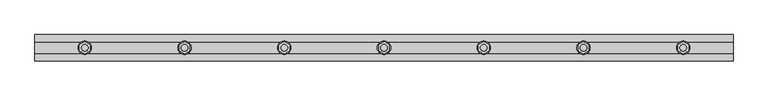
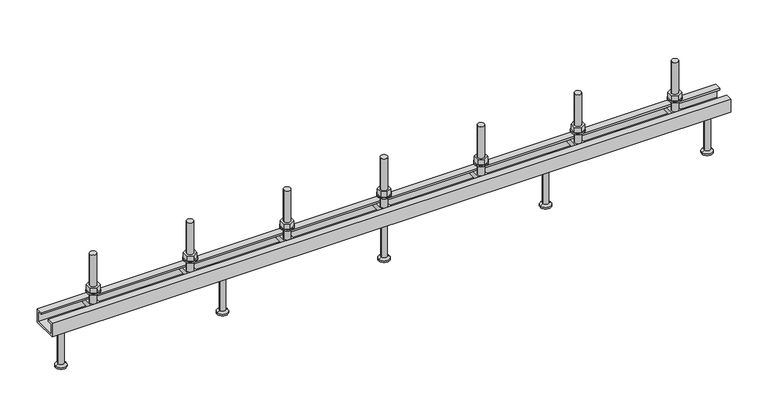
"""IFC4 building model written with IfcOpenShell, lengths in millimetres: fastener geometry, JTA-W JORDAHL® AnchorChannels : JTA-W L=1050 mm."""

from ifc_helpers import new_model, si_unit, point, frame, frame_2d, origin, place, context, project, spatial, polyline, circle_curve, trimmed, segment, composite_curve, outline, extrude, source, transform, mapped, element, save
from ifc_brep_helpers import plane_surface, cylinder_surface, revolved_surface, advanced_brep


def fastener_079a92b3(model_context):
    return source(origin(), model_context, "Body", "SolidModel", [
        extrude(outline(polyline([(825.0, 9.2376043), (833.0, 4.6188022), (833.0, -4.6188022), (825.0, -9.2376043), (817.0, -4.6188022), (817.0, 4.6188022), (825.0, 9.2376043)]), holes=[composite_curve([segment(trimmed(circle_curve(frame_2d((825.0, 0.0)), 5.0), [point((820.0, 0.0))], [point((830.0, 0.0))], True, "CARTESIAN"), True, "CONTINUOUS"), segment(trimmed(circle_curve(frame_2d((825.0, 0.0)), 5.0), [point((830.0, 0.0))], [point((820.0, 0.0))], True, "CARTESIAN"), True, "CONTINUOUS")], self_intersect=False)]), frame((0.0, 0.0, 17.0), z_axis=(0.0, 0.0, 1.0), x_axis=(1.0, 0.0, 0.0)), (0.0, 0.0, 1.0), 8.4),
        extrude(outline(composite_curve([segment(trimmed(circle_curve(frame_2d((825.0, 0.0)), 10.0), [point((815.0, 0.0))], [point((835.0, 0.0))], False, "CARTESIAN"), True, "CONTINUOUS"), segment(trimmed(circle_curve(frame_2d((825.0, 0.0)), 10.0), [point((835.0, 0.0))], [point((815.0, 0.0))], False, "CARTESIAN"), True, "CONTINUOUS")], self_intersect=False), holes=[composite_curve([segment(trimmed(circle_curve(frame_2d((825.0, 0.0)), 5.25), [point((819.75, 0.0))], [point((830.25, 0.0))], True, "CARTESIAN"), True, "CONTINUOUS"), segment(trimmed(circle_curve(frame_2d((825.0, 0.0)), 5.25), [point((830.25, 0.0))], [point((819.75, 0.0))], True, "CARTESIAN"), True, "CONTINUOUS")], self_intersect=False)]), frame((0.0, 0.0, 15.0), z_axis=(0.0, 0.0, 1.0), x_axis=(1.0, 0.0, 0.0)), (0.0, 0.0, 1.0), 2.0),
        extrude(outline(polyline([(675.0, 9.2376043), (683.0, 4.6188022), (683.0, -4.6188022), (675.0, -9.2376043), (667.0, -4.6188022), (667.0, 4.6188022), (675.0, 9.2376043)]), holes=[composite_curve([segment(trimmed(circle_curve(frame_2d((675.0, 0.0)), 5.0), [point((670.0, 0.0))], [point((680.0, 0.0))], True, "CARTESIAN"), True, "CONTINUOUS"), segment(trimmed(circle_curve(frame_2d((675.0, 0.0)), 5.0), [point((680.0, 0.0))], [point((670.0, 0.0))], True, "CARTESIAN"), True, "CONTINUOUS")], self_intersect=False)]), frame((0.0, 0.0, 17.0), z_axis=(0.0, 0.0, 1.0), x_axis=(1.0, 0.0, 0.0)), (0.0, 0.0, 1.0), 8.4),
        extrude(outline(composite_curve([segment(trimmed(circle_curve(frame_2d((675.0, 0.0)), 10.0), [point((665.0, 0.0))], [point((685.0, 0.0))], False, "CARTESIAN"), True, "CONTINUOUS"), segment(trimmed(circle_curve(frame_2d((675.0, 0.0)), 10.0), [point((685.0, 0.0))], [point((665.0, 0.0))], False, "CARTESIAN"), True, "CONTINUOUS")], self_intersect=False), holes=[composite_curve([segment(trimmed(circle_curve(frame_2d((675.0, 0.0)), 5.25), [point((669.75, 0.0))], [point((680.25, 0.0))], True, "CARTESIAN"), True, "CONTINUOUS"), segment(trimmed(circle_curve(frame_2d((675.0, 0.0)), 5.25), [point((680.25, 0.0))], [point((669.75, 0.0))], True, "CARTESIAN"), True, "CONTINUOUS")], self_intersect=False)]), frame((0.0, 0.0, 15.0), z_axis=(0.0, 0.0, 1.0), x_axis=(1.0, 0.0, 0.0)), (0.0, 0.0, 1.0), 2.0),
        extrude(outline(polyline([(525.0, 9.2376043), (533.0, 4.6188022), (533.0, -4.6188022), (525.0, -9.2376043), (517.0, -4.6188022), (517.0, 4.6188022), (525.0, 9.2376043)]), holes=[composite_curve([segment(trimmed(circle_curve(frame_2d((525.0, 0.0)), 5.0), [point((520.0, 0.0))], [point((530.0, 0.0))], True, "CARTESIAN"), True, "CONTINUOUS"), segment(trimmed(circle_curve(frame_2d((525.0, 0.0)), 5.0), [point((530.0, 0.0))], [point((520.0, 0.0))], True, "CARTESIAN"), True, "CONTINUOUS")], self_intersect=False)]), frame((0.0, 0.0, 17.0), z_axis=(0.0, 0.0, 1.0), x_axis=(1.0, 0.0, 0.0)), (0.0, 0.0, 1.0), 8.4),
        extrude(outline(composite_curve([segment(trimmed(circle_curve(frame_2d((525.0, 0.0)), 10.0), [point((515.0, 0.0))], [point((535.0, 0.0))], False, "CARTESIAN"), True, "CONTINUOUS"), segment(trimmed(circle_curve(frame_2d((525.0, 0.0)), 10.0), [point((535.0, 0.0))], [point((515.0, 0.0))], False, "CARTESIAN"), True, "CONTINUOUS")], self_intersect=False), holes=[composite_curve([segment(trimmed(circle_curve(frame_2d((525.0, 0.0)), 5.25), [point((519.75, 0.0))], [point((530.25, 0.0))], True, "CARTESIAN"), True, "CONTINUOUS"), segment(trimmed(circle_curve(frame_2d((525.0, 0.0)), 5.25), [point((530.25, 0.0))], [point((519.75, 0.0))], True, "CARTESIAN"), True, "CONTINUOUS")], self_intersect=False)]), frame((0.0, 0.0, 15.0), z_axis=(0.0, 0.0, 1.0), x_axis=(1.0, 0.0, 0.0)), (0.0, 0.0, 1.0), 2.0),
        extrude(outline(polyline([(375.0, 9.2376043), (383.0, 4.6188022), (383.0, -4.6188022), (375.0, -9.2376043), (367.0, -4.6188022), (367.0, 4.6188022), (375.0, 9.2376043)]), holes=[composite_curve([segment(trimmed(circle_curve(frame_2d((375.0, 0.0)), 5.0), [point((370.0, 0.0))], [point((380.0, 0.0))], True, "CARTESIAN"), True, "CONTINUOUS"), segment(trimmed(circle_curve(frame_2d((375.0, 0.0)), 5.0), [point((380.0, 0.0))], [point((370.0, 0.0))], True, "CARTESIAN"), True, "CONTINUOUS")], self_intersect=False)]), frame((0.0, 0.0, 17.0), z_axis=(0.0, 0.0, 1.0), x_axis=(1.0, 0.0, 0.0)), (0.0, 0.0, 1.0), 8.4),
        extrude(outline(composite_curve([segment(trimmed(circle_curve(frame_2d((375.0, 0.0)), 10.0), [point((365.0, 0.0))], [point((385.0, 0.0))], False, "CARTESIAN"), True, "CONTINUOUS"), segment(trimmed(circle_curve(frame_2d((375.0, 0.0)), 10.0), [point((385.0, 0.0))], [point((365.0, 0.0))], False, "CARTESIAN"), True, "CONTINUOUS")], self_intersect=False), holes=[composite_curve([segment(trimmed(circle_curve(frame_2d((375.0, 0.0)), 5.25), [point((369.75, 0.0))], [point((380.25, 0.0))], True, "CARTESIAN"), True, "CONTINUOUS"), segment(trimmed(circle_curve(frame_2d((375.0, 0.0)), 5.25), [point((380.25, 0.0))], [point((369.75, 0.0))], True, "CARTESIAN"), True, "CONTINUOUS")], self_intersect=False)]), frame((0.0, 0.0, 15.0), z_axis=(0.0, 0.0, 1.0), x_axis=(1.0, 0.0, 0.0)), (0.0, 0.0, 1.0), 2.0),
        extrude(outline(polyline([(225.0, 9.2376043), (233.0, 4.6188022), (233.0, -4.6188022), (225.0, -9.2376043), (217.0, -4.6188022), (217.0, 4.6188022), (225.0, 9.2376043)]), holes=[composite_curve([segment(trimmed(circle_curve(frame_2d((225.0, 0.0)), 5.0), [point((220.0, 0.0))], [point((230.0, 0.0))], True, "CARTESIAN"), True, "CONTINUOUS"), segment(trimmed(circle_curve(frame_2d((225.0, 0.0)), 5.0), [point((230.0, 0.0))], [point((220.0, 0.0))], True, "CARTESIAN"), True, "CONTINUOUS")], self_intersect=False)]), frame((0.0, 0.0, 17.0), z_axis=(0.0, 0.0, 1.0), x_axis=(1.0, 0.0, 0.0)), (0.0, 0.0, 1.0), 8.4),
        extrude(outline(composite_curve([segment(trimmed(circle_curve(frame_2d((225.0, 0.0)), 10.0), [point((215.0, 0.0))], [point((235.0, 0.0))], False, "CARTESIAN"), True, "CONTINUOUS"), segment(trimmed(circle_curve(frame_2d((225.0, 0.0)), 10.0), [point((235.0, 0.0))], [point((215.0, 0.0))], False, "CARTESIAN"), True, "CONTINUOUS")], self_intersect=False), holes=[composite_curve([segment(trimmed(circle_curve(frame_2d((225.0, 0.0)), 5.25), [point((219.75, 0.0))], [point((230.25, 0.0))], True, "CARTESIAN"), True, "CONTINUOUS"), segment(trimmed(circle_curve(frame_2d((225.0, 0.0)), 5.25), [point((230.25, 0.0))], [point((219.75, 0.0))], True, "CARTESIAN"), True, "CONTINUOUS")], self_intersect=False)]), frame((0.0, 0.0, 15.0), z_axis=(0.0, 0.0, 1.0), x_axis=(1.0, 0.0, 0.0)), (0.0, 0.0, 1.0), 2.0),
        advanced_brep(
        [(832.0, 16.25, -3.0), (832.0, -16.25, -3.0), (832.0, -16.25, -11.0), (832.0, 16.25, -11.0), (818.0, 16.25, -3.0), (818.0, 16.25, -11.0), (818.0, -16.25, -11.0), (818.0, -16.25, -3.0), (830.0, 0.0, -3.0), (820.0, 0.0, -3.0), (820.0, 0.0, 77.0), (830.0, 0.0, 77.0)],
        [
            (0, 1),
            (1, 2),
            (2, 3),
            (3, 0),
            (4, 5),
            (5, 6),
            (6, 7),
            (7, 4),
            (0, 4),
            (7, 1),
            (8, 9, circle_curve(frame((825.0, 0.0, -3.0), z_axis=(0.0, 0.0, -1.0), x_axis=(1.0, 0.0, 0.0)), 5.0)),
            (9, 8, circle_curve(frame((825.0, 0.0, -3.0), z_axis=(0.0, 0.0, -1.0), x_axis=(1.0, 0.0, 0.0)), 5.0)),
            (6, 2),
            (5, 3),
            (10, 11, circle_curve(frame((825.0, 0.0, 77.0), z_axis=(0.0, 0.0, 1.0), x_axis=(1.0, 0.0, 0.0)), 5.0)),
            (11, 10, circle_curve(frame((825.0, 0.0, 77.0), z_axis=(0.0, 0.0, 1.0), x_axis=(1.0, 0.0, 0.0)), 5.0)),
            (10, 9),
            (8, 11),
        ],
        [
            plane_surface(frame((832.0, -16.25, -3.0), z_axis=(1.0, 0.0, 0.0), x_axis=(0.0, -1.0, 0.0))),
            plane_surface(frame((818.0, -16.25, -3.0), z_axis=(-1.0, 0.0, 0.0), x_axis=(0.0, 1.0, 0.0))),
            plane_surface(frame((832.0, 16.25, -3.0), z_axis=(0.0, 0.0, 1.0), x_axis=(-1.0, 0.0, 0.0))),
            plane_surface(frame((832.0, -16.25, -3.0), z_axis=(0.0, -1.0, 0.0), x_axis=(-1.0, 0.0, 0.0))),
            plane_surface(frame((832.0, -16.25, -11.0), z_axis=(0.0, 0.0, -1.0), x_axis=(-1.0, 0.0, 0.0))),
            plane_surface(frame((832.0, 16.25, -11.0), z_axis=(0.0, 1.0, 0.0), x_axis=(-1.0, 0.0, 0.0))),
            plane_surface(frame((830.0, 0.0, 77.0), z_axis=(0.0, 0.0, 1.0), x_axis=(0.0, 1.0, 0.0))),
            cylinder_surface(frame((825.0, 0.0, -3.0), z_axis=(0.0, 0.0, 1.0), x_axis=(1.0, 0.0, 0.0)), 5.0),
        ],
        [
            (0, [[1, 2, 3, 4]]),
            (1, [[5, 6, 7, 8]]),
            (2, [[-1, 9, -8, 10], [11, 12]]),
            (3, [[-2, -10, -7, 13]]),
            (4, [[-3, -13, -6, 14]]),
            (5, [[-4, -14, -5, -9]]),
            (6, [[15, 16]]),
            (7, [[-15, 17, -11, 18]]),
            (7, [[-16, -18, -12, -17]]),
        ],
    ),
        advanced_brep(
        [(682.0, 16.25, -3.0), (682.0, -16.25, -3.0), (682.0, -16.25, -11.0), (682.0, 16.25, -11.0), (668.0, 16.25, -3.0), (668.0, 16.25, -11.0), (668.0, -16.25, -11.0), (668.0, -16.25, -3.0), (680.0, 0.0, -3.0), (670.0, 0.0, -3.0), (670.0, 0.0, 77.0), (680.0, 0.0, 77.0)],
        [
            (0, 1),
            (1, 2),
            (2, 3),
            (3, 0),
            (4, 5),
            (5, 6),
            (6, 7),
            (7, 4),
            (0, 4),
            (7, 1),
            (8, 9, circle_curve(frame((675.0, 0.0, -3.0), z_axis=(0.0, 0.0, -1.0), x_axis=(1.0, 0.0, 0.0)), 5.0)),
            (9, 8, circle_curve(frame((675.0, 0.0, -3.0), z_axis=(0.0, 0.0, -1.0), x_axis=(1.0, 0.0, 0.0)), 5.0)),
            (6, 2),
            (5, 3),
            (10, 11, circle_curve(frame((675.0, 0.0, 77.0), z_axis=(0.0, 0.0, 1.0), x_axis=(1.0, 0.0, 0.0)), 5.0)),
            (11, 10, circle_curve(frame((675.0, 0.0, 77.0), z_axis=(0.0, 0.0, 1.0), x_axis=(1.0, 0.0, 0.0)), 5.0)),
            (10, 9),
            (8, 11),
        ],
        [
            plane_surface(frame((682.0, -16.25, -3.0), z_axis=(1.0, 0.0, 0.0), x_axis=(0.0, -1.0, 0.0))),
            plane_surface(frame((668.0, -16.25, -3.0), z_axis=(-1.0, 0.0, 0.0), x_axis=(0.0, 1.0, 0.0))),
            plane_surface(frame((682.0, 16.25, -3.0), z_axis=(0.0, 0.0, 1.0), x_axis=(-1.0, 0.0, 0.0))),
            plane_surface(frame((682.0, -16.25, -3.0), z_axis=(0.0, -1.0, 0.0), x_axis=(-1.0, 0.0, 0.0))),
            plane_surface(frame((682.0, -16.25, -11.0), z_axis=(0.0, 0.0, -1.0), x_axis=(-1.0, 0.0, 0.0))),
            plane_surface(frame((682.0, 16.25, -11.0), z_axis=(0.0, 1.0, 0.0), x_axis=(-1.0, 0.0, 0.0))),
            plane_surface(frame((680.0, 0.0, 77.0), z_axis=(0.0, 0.0, 1.0), x_axis=(0.0, 1.0, 0.0))),
            cylinder_surface(frame((675.0, 0.0, -3.0), z_axis=(0.0, 0.0, 1.0), x_axis=(1.0, 0.0, 0.0)), 5.0),
        ],
        [
            (0, [[1, 2, 3, 4]]),
            (1, [[5, 6, 7, 8]]),
            (2, [[-1, 9, -8, 10], [11, 12]]),
            (3, [[-2, -10, -7, 13]]),
            (4, [[-3, -13, -6, 14]]),
            (5, [[-4, -14, -5, -9]]),
            (6, [[15, 16]]),
            (7, [[-15, 17, -11, 18]]),
            (7, [[-16, -18, -12, -17]]),
        ],
    ),
        advanced_brep(
        [(532.0, 16.25, -3.0), (532.0, -16.25, -3.0), (532.0, -16.25, -11.0), (532.0, 16.25, -11.0), (518.0, 16.25, -3.0), (518.0, 16.25, -11.0), (518.0, -16.25, -11.0), (518.0, -16.25, -3.0), (530.0, 0.0, -3.0), (520.0, 0.0, -3.0), (520.0, 0.0, 77.0), (530.0, 0.0, 77.0)],
        [
            (0, 1),
            (1, 2),
            (2, 3),
            (3, 0),
            (4, 5),
            (5, 6),
            (6, 7),
            (7, 4),
            (0, 4),
            (7, 1),
            (8, 9, circle_curve(frame((525.0, 0.0, -3.0), z_axis=(0.0, 0.0, -1.0), x_axis=(1.0, 0.0, 0.0)), 5.0)),
            (9, 8, circle_curve(frame((525.0, 0.0, -3.0), z_axis=(0.0, 0.0, -1.0), x_axis=(1.0, 0.0, 0.0)), 5.0)),
            (6, 2),
            (5, 3),
            (10, 11, circle_curve(frame((525.0, 0.0, 77.0), z_axis=(0.0, 0.0, 1.0), x_axis=(1.0, 0.0, 0.0)), 5.0)),
            (11, 10, circle_curve(frame((525.0, 0.0, 77.0), z_axis=(0.0, 0.0, 1.0), x_axis=(1.0, 0.0, 0.0)), 5.0)),
            (10, 9),
            (8, 11),
        ],
        [
            plane_surface(frame((532.0, -16.25, -3.0), z_axis=(1.0, 0.0, 0.0), x_axis=(0.0, -1.0, 0.0))),
            plane_surface(frame((518.0, -16.25, -3.0), z_axis=(-1.0, 0.0, 0.0), x_axis=(0.0, 1.0, 0.0))),
            plane_surface(frame((532.0, 16.25, -3.0), z_axis=(0.0, 0.0, 1.0), x_axis=(-1.0, 0.0, 0.0))),
            plane_surface(frame((532.0, -16.25, -3.0), z_axis=(0.0, -1.0, 0.0), x_axis=(-1.0, 0.0, 0.0))),
            plane_surface(frame((532.0, -16.25, -11.0), z_axis=(0.0, 0.0, -1.0), x_axis=(-1.0, 0.0, 0.0))),
            plane_surface(frame((532.0, 16.25, -11.0), z_axis=(0.0, 1.0, 0.0), x_axis=(-1.0, 0.0, 0.0))),
            plane_surface(frame((530.0, 0.0, 77.0), z_axis=(0.0, 0.0, 1.0), x_axis=(0.0, 1.0, 0.0))),
            cylinder_surface(frame((525.0, 0.0, -3.0), z_axis=(0.0, 0.0, 1.0), x_axis=(1.0, 0.0, 0.0)), 5.0),
        ],
        [
            (0, [[1, 2, 3, 4]]),
            (1, [[5, 6, 7, 8]]),
            (2, [[-1, 9, -8, 10], [11, 12]]),
            (3, [[-2, -10, -7, 13]]),
            (4, [[-3, -13, -6, 14]]),
            (5, [[-4, -14, -5, -9]]),
            (6, [[15, 16]]),
            (7, [[-15, 17, -11, 18]]),
            (7, [[-16, -18, -12, -17]]),
        ],
    ),
        advanced_brep(
        [(382.0, 16.25, -3.0), (382.0, -16.25, -3.0), (382.0, -16.25, -11.0), (382.0, 16.25, -11.0), (368.0, 16.25, -3.0), (368.0, 16.25, -11.0), (368.0, -16.25, -11.0), (368.0, -16.25, -3.0), (380.0, 0.0, -3.0), (370.0, 0.0, -3.0), (370.0, 0.0, 77.0), (380.0, 0.0, 77.0)],
        [
            (0, 1),
            (1, 2),
            (2, 3),
            (3, 0),
            (4, 5),
            (5, 6),
            (6, 7),
            (7, 4),
            (0, 4),
            (7, 1),
            (8, 9, circle_curve(frame((375.0, 0.0, -3.0), z_axis=(0.0, 0.0, -1.0), x_axis=(1.0, 0.0, 0.0)), 5.0)),
            (9, 8, circle_curve(frame((375.0, 0.0, -3.0), z_axis=(0.0, 0.0, -1.0), x_axis=(1.0, 0.0, 0.0)), 5.0)),
            (6, 2),
            (5, 3),
            (10, 11, circle_curve(frame((375.0, 0.0, 77.0), z_axis=(0.0, 0.0, 1.0), x_axis=(1.0, 0.0, 0.0)), 5.0)),
            (11, 10, circle_curve(frame((375.0, 0.0, 77.0), z_axis=(0.0, 0.0, 1.0), x_axis=(1.0, 0.0, 0.0)), 5.0)),
            (10, 9),
            (8, 11),
        ],
        [
            plane_surface(frame((382.0, -16.25, -3.0), z_axis=(1.0, 0.0, 0.0), x_axis=(0.0, -1.0, 0.0))),
            plane_surface(frame((368.0, -16.25, -3.0), z_axis=(-1.0, 0.0, 0.0), x_axis=(0.0, 1.0, 0.0))),
            plane_surface(frame((382.0, 16.25, -3.0), z_axis=(0.0, 0.0, 1.0), x_axis=(-1.0, 0.0, 0.0))),
            plane_surface(frame((382.0, -16.25, -3.0), z_axis=(0.0, -1.0, 0.0), x_axis=(-1.0, 0.0, 0.0))),
            plane_surface(frame((382.0, -16.25, -11.0), z_axis=(0.0, 0.0, -1.0), x_axis=(-1.0, 0.0, 0.0))),
            plane_surface(frame((382.0, 16.25, -11.0), z_axis=(0.0, 1.0, 0.0), x_axis=(-1.0, 0.0, 0.0))),
            plane_surface(frame((380.0, 0.0, 77.0), z_axis=(0.0, 0.0, 1.0), x_axis=(0.0, 1.0, 0.0))),
            cylinder_surface(frame((375.0, 0.0, -3.0), z_axis=(0.0, 0.0, 1.0), x_axis=(1.0, 0.0, 0.0)), 5.0),
        ],
        [
            (0, [[1, 2, 3, 4]]),
            (1, [[5, 6, 7, 8]]),
            (2, [[-1, 9, -8, 10], [11, 12]]),
            (3, [[-2, -10, -7, 13]]),
            (4, [[-3, -13, -6, 14]]),
            (5, [[-4, -14, -5, -9]]),
            (6, [[15, 16]]),
            (7, [[-15, 17, -11, 18]]),
            (7, [[-16, -18, -12, -17]]),
        ],
    ),
        advanced_brep(
        [(232.0, 16.25, -3.0), (232.0, -16.25, -3.0), (232.0, -16.25, -11.0), (232.0, 16.25, -11.0), (218.0, 16.25, -3.0), (218.0, 16.25, -11.0), (218.0, -16.25, -11.0), (218.0, -16.25, -3.0), (230.0, 0.0, -3.0), (220.0, 0.0, -3.0), (220.0, 0.0, 77.0), (230.0, 0.0, 77.0)],
        [
            (0, 1),
            (1, 2),
            (2, 3),
            (3, 0),
            (4, 5),
            (5, 6),
            (6, 7),
            (7, 4),
            (0, 4),
            (7, 1),
            (8, 9, circle_curve(frame((225.0, 0.0, -3.0), z_axis=(0.0, 0.0, -1.0), x_axis=(1.0, 0.0, 0.0)), 5.0)),
            (9, 8, circle_curve(frame((225.0, 0.0, -3.0), z_axis=(0.0, 0.0, -1.0), x_axis=(1.0, 0.0, 0.0)), 5.0)),
            (6, 2),
            (5, 3),
            (10, 11, circle_curve(frame((225.0, 0.0, 77.0), z_axis=(0.0, 0.0, 1.0), x_axis=(1.0, 0.0, 0.0)), 5.0)),
            (11, 10, circle_curve(frame((225.0, 0.0, 77.0), z_axis=(0.0, 0.0, 1.0), x_axis=(1.0, 0.0, 0.0)), 5.0)),
            (10, 9),
            (8, 11),
        ],
        [
            plane_surface(frame((232.0, -16.25, -3.0), z_axis=(1.0, 0.0, 0.0), x_axis=(0.0, -1.0, 0.0))),
            plane_surface(frame((218.0, -16.25, -3.0), z_axis=(-1.0, 0.0, 0.0), x_axis=(0.0, 1.0, 0.0))),
            plane_surface(frame((232.0, 16.25, -3.0), z_axis=(0.0, 0.0, 1.0), x_axis=(-1.0, 0.0, 0.0))),
            plane_surface(frame((232.0, -16.25, -3.0), z_axis=(0.0, -1.0, 0.0), x_axis=(-1.0, 0.0, 0.0))),
            plane_surface(frame((232.0, -16.25, -11.0), z_axis=(0.0, 0.0, -1.0), x_axis=(-1.0, 0.0, 0.0))),
            plane_surface(frame((232.0, 16.25, -11.0), z_axis=(0.0, 1.0, 0.0), x_axis=(-1.0, 0.0, 0.0))),
            plane_surface(frame((230.0, 0.0, 77.0), z_axis=(0.0, 0.0, 1.0), x_axis=(0.0, 1.0, 0.0))),
            cylinder_surface(frame((225.0, 0.0, -3.0), z_axis=(0.0, 0.0, 1.0), x_axis=(1.0, 0.0, 0.0)), 5.0),
        ],
        [
            (0, [[1, 2, 3, 4]]),
            (1, [[5, 6, 7, 8]]),
            (2, [[-1, 9, -8, 10], [11, 12]]),
            (3, [[-2, -10, -7, 13]]),
            (4, [[-3, -13, -6, 14]]),
            (5, [[-4, -14, -5, -9]]),
            (6, [[15, 16]]),
            (7, [[-15, 17, -11, 18]]),
            (7, [[-16, -18, -12, -17]]),
        ],
    ),
        advanced_brep(
        [(775.0, 0.0, -22.0), (788.5, 0.0, -22.0), (761.5, 0.0, -22.0), (766.5, 0.0, -90.0), (783.5, 0.0, -90.0), (775.0, 0.0, -90.0), (766.5, 0.0, -88.0), (783.5, 0.0, -88.0), (770.5, 0.0, -85.6905989), (779.5, 0.0, -85.6905989), (770.5, 0.0, -24.5), (779.5, 0.0, -24.5)],
        [
            (0, 1),
            (1, 2, circle_curve(frame((775.0, 0.0, -22.0), z_axis=(0.0, 0.0, 1.0), x_axis=(1.0, 0.0, 0.0)), 13.5)),
            (2, 0),
            (2, 1, circle_curve(frame((775.0, 0.0, -22.0), z_axis=(0.0, 0.0, 1.0), x_axis=(1.0, 0.0, 0.0)), 13.5)),
            (3, 4, circle_curve(frame((775.0, 0.0, -90.0), z_axis=(0.0, 0.0, -1.0), x_axis=(1.0, 0.0, 0.0)), 8.5)),
            (4, 5),
            (5, 3),
            (4, 3, circle_curve(frame((775.0, 0.0, -90.0), z_axis=(0.0, 0.0, -1.0), x_axis=(1.0, 0.0, 0.0)), 8.5)),
            (6, 7, circle_curve(frame((775.0, 0.0, -88.0), z_axis=(0.0, 0.0, -1.0), x_axis=(1.0, 0.0, 0.0)), 8.5)),
            (7, 4),
            (3, 6),
            (7, 6, circle_curve(frame((775.0, 0.0, -88.0), z_axis=(0.0, 0.0, -1.0), x_axis=(1.0, 0.0, 0.0)), 8.5)),
            (8, 9, circle_curve(frame((775.0, 0.0, -85.6905989), z_axis=(0.0, 0.0, -1.0), x_axis=(1.0, 0.0, 0.0)), 4.5)),
            (9, 7),
            (6, 8),
            (9, 8, circle_curve(frame((775.0, 0.0, -85.6905989), z_axis=(0.0, 0.0, -1.0), x_axis=(1.0, 0.0, 0.0)), 4.5)),
            (10, 11, circle_curve(frame((775.0, 0.0, -24.5), z_axis=(0.0, 0.0, -1.0), x_axis=(1.0, 0.0, 0.0)), 4.5)),
            (11, 9),
            (8, 10),
            (11, 10, circle_curve(frame((775.0, 0.0, -24.5), z_axis=(0.0, 0.0, -1.0), x_axis=(1.0, 0.0, 0.0)), 4.5)),
            (1, 11),
            (10, 2),
        ],
        [
            plane_surface(frame((775.0, 0.0, -22.0), z_axis=(0.0, 0.0, 1.0), x_axis=(1.0, 0.0, 0.0))),
            plane_surface(frame((775.0, 0.0, -90.0), z_axis=(0.0, 0.0, -1.0), x_axis=(1.0, 0.0, 0.0))),
            cylinder_surface(frame((775.0, 0.0, 2282.3150031), z_axis=(0.0, 0.0, 1.0), x_axis=(1.0, 0.0, 0.0)), 8.5),
            revolved_surface(polyline([(783.5, 0.0, -88.0), (779.5, 0.0, -85.6905989)]), (775.0, 0.0, 2282.3150031), (0.0, 0.0, 1.0)),
            cylinder_surface(frame((775.0, 0.0, 2282.3150031), z_axis=(0.0, 0.0, 1.0), x_axis=(1.0, 0.0, 0.0)), 4.5),
            revolved_surface(polyline([(779.5, 0.0, -24.5), (788.5, 0.0, -22.0)]), (775.0, 0.0, 2282.3150031), (0.0, 0.0, 1.0)),
        ],
        [
            (0, [[1, 2, 3]]),
            (0, [[-3, 4, -1]]),
            (1, [[5, 6, 7]]),
            (1, [[8, -7, -6]]),
            (2, [[9, 10, -5, 11]]),
            (2, [[12, -11, -8, -10]]),
            (3, [[13, 14, -9, 15]]),
            (3, [[16, -15, -12, -14]]),
            (4, [[17, 18, -13, 19]]),
            (4, [[20, -19, -16, -18]]),
            (5, [[-2, 21, -17, 22]]),
            (5, [[-4, -22, -20, -21]]),
        ],
    ),
        advanced_brep(
        [(525.0, 0.0, -22.0), (538.5, 0.0, -22.0), (511.5, 0.0, -22.0), (516.5, 0.0, -90.0), (533.5, 0.0, -90.0), (525.0, 0.0, -90.0), (516.5, 0.0, -88.0), (533.5, 0.0, -88.0), (520.5, 0.0, -85.6905989), (529.5, 0.0, -85.6905989), (520.5, 0.0, -24.5), (529.5, 0.0, -24.5)],
        [
            (0, 1),
            (1, 2, circle_curve(frame((525.0, 0.0, -22.0), z_axis=(0.0, 0.0, 1.0), x_axis=(1.0, 0.0, 0.0)), 13.5)),
            (2, 0),
            (2, 1, circle_curve(frame((525.0, 0.0, -22.0), z_axis=(0.0, 0.0, 1.0), x_axis=(1.0, 0.0, 0.0)), 13.5)),
            (3, 4, circle_curve(frame((525.0, 0.0, -90.0), z_axis=(0.0, 0.0, -1.0), x_axis=(1.0, 0.0, 0.0)), 8.5)),
            (4, 5),
            (5, 3),
            (4, 3, circle_curve(frame((525.0, 0.0, -90.0), z_axis=(0.0, 0.0, -1.0), x_axis=(1.0, 0.0, 0.0)), 8.5)),
            (6, 7, circle_curve(frame((525.0, 0.0, -88.0), z_axis=(0.0, 0.0, -1.0), x_axis=(1.0, 0.0, 0.0)), 8.5)),
            (7, 4),
            (3, 6),
            (7, 6, circle_curve(frame((525.0, 0.0, -88.0), z_axis=(0.0, 0.0, -1.0), x_axis=(1.0, 0.0, 0.0)), 8.5)),
            (8, 9, circle_curve(frame((525.0, 0.0, -85.6905989), z_axis=(0.0, 0.0, -1.0), x_axis=(1.0, 0.0, 0.0)), 4.5)),
            (9, 7),
            (6, 8),
            (9, 8, circle_curve(frame((525.0, 0.0, -85.6905989), z_axis=(0.0, 0.0, -1.0), x_axis=(1.0, 0.0, 0.0)), 4.5)),
            (10, 11, circle_curve(frame((525.0, 0.0, -24.5), z_axis=(0.0, 0.0, -1.0), x_axis=(1.0, 0.0, 0.0)), 4.5)),
            (11, 9),
            (8, 10),
            (11, 10, circle_curve(frame((525.0, 0.0, -24.5), z_axis=(0.0, 0.0, -1.0), x_axis=(1.0, 0.0, 0.0)), 4.5)),
            (1, 11),
            (10, 2),
        ],
        [
            plane_surface(frame((525.0, 0.0, -22.0), z_axis=(0.0, 0.0, 1.0), x_axis=(1.0, 0.0, 0.0))),
            plane_surface(frame((525.0, 0.0, -90.0), z_axis=(0.0, 0.0, -1.0), x_axis=(1.0, 0.0, 0.0))),
            cylinder_surface(frame((525.0, 0.0, 2282.3150031), z_axis=(0.0, 0.0, 1.0), x_axis=(1.0, 0.0, 0.0)), 8.5),
            revolved_surface(polyline([(533.5, 0.0, -88.0), (529.5, 0.0, -85.6905989)]), (525.0, 0.0, 2282.3150031), (0.0, 0.0, 1.0)),
            cylinder_surface(frame((525.0, 0.0, 2282.3150031), z_axis=(0.0, 0.0, 1.0), x_axis=(1.0, 0.0, 0.0)), 4.5),
            revolved_surface(polyline([(529.5, 0.0, -24.5), (538.5, 0.0, -22.0)]), (525.0, 0.0, 2282.3150031), (0.0, 0.0, 1.0)),
        ],
        [
            (0, [[1, 2, 3]]),
            (0, [[-3, 4, -1]]),
            (1, [[5, 6, 7]]),
            (1, [[8, -7, -6]]),
            (2, [[9, 10, -5, 11]]),
            (2, [[12, -11, -8, -10]]),
            (3, [[13, 14, -9, 15]]),
            (3, [[16, -15, -12, -14]]),
            (4, [[17, 18, -13, 19]]),
            (4, [[20, -19, -16, -18]]),
            (5, [[-2, 21, -17, 22]]),
            (5, [[-4, -22, -20, -21]]),
        ],
    ),
        advanced_brep(
        [(275.0, 0.0, -22.0), (288.5, 0.0, -22.0), (261.5, 0.0, -22.0), (266.5, 0.0, -90.0), (283.5, 0.0, -90.0), (275.0, 0.0, -90.0), (266.5, 0.0, -88.0), (283.5, 0.0, -88.0), (270.5, 0.0, -85.6905989), (279.5, 0.0, -85.6905989), (270.5, 0.0, -24.5), (279.5, 0.0, -24.5)],
        [
            (0, 1),
            (1, 2, circle_curve(frame((275.0, 0.0, -22.0), z_axis=(0.0, 0.0, 1.0), x_axis=(1.0, 0.0, 0.0)), 13.5)),
            (2, 0),
            (2, 1, circle_curve(frame((275.0, 0.0, -22.0), z_axis=(0.0, 0.0, 1.0), x_axis=(1.0, 0.0, 0.0)), 13.5)),
            (3, 4, circle_curve(frame((275.0, 0.0, -90.0), z_axis=(0.0, 0.0, -1.0), x_axis=(1.0, 0.0, 0.0)), 8.5)),
            (4, 5),
            (5, 3),
            (4, 3, circle_curve(frame((275.0, 0.0, -90.0), z_axis=(0.0, 0.0, -1.0), x_axis=(1.0, 0.0, 0.0)), 8.5)),
            (6, 7, circle_curve(frame((275.0, 0.0, -88.0), z_axis=(0.0, 0.0, -1.0), x_axis=(1.0, 0.0, 0.0)), 8.5)),
            (7, 4),
            (3, 6),
            (7, 6, circle_curve(frame((275.0, 0.0, -88.0), z_axis=(0.0, 0.0, -1.0), x_axis=(1.0, 0.0, 0.0)), 8.5)),
            (8, 9, circle_curve(frame((275.0, 0.0, -85.6905989), z_axis=(0.0, 0.0, -1.0), x_axis=(1.0, 0.0, 0.0)), 4.5)),
            (9, 7),
            (6, 8),
            (9, 8, circle_curve(frame((275.0, 0.0, -85.6905989), z_axis=(0.0, 0.0, -1.0), x_axis=(1.0, 0.0, 0.0)), 4.5)),
            (10, 11, circle_curve(frame((275.0, 0.0, -24.5), z_axis=(0.0, 0.0, -1.0), x_axis=(1.0, 0.0, 0.0)), 4.5)),
            (11, 9),
            (8, 10),
            (11, 10, circle_curve(frame((275.0, 0.0, -24.5), z_axis=(0.0, 0.0, -1.0), x_axis=(1.0, 0.0, 0.0)), 4.5)),
            (1, 11),
            (10, 2),
        ],
        [
            plane_surface(frame((275.0, 0.0, -22.0), z_axis=(0.0, 0.0, 1.0), x_axis=(1.0, 0.0, 0.0))),
            plane_surface(frame((275.0, 0.0, -90.0), z_axis=(0.0, 0.0, -1.0), x_axis=(1.0, 0.0, 0.0))),
            cylinder_surface(frame((275.0, 0.0, 2282.3150031), z_axis=(0.0, 0.0, 1.0), x_axis=(1.0, 0.0, 0.0)), 8.5),
            revolved_surface(polyline([(283.5, 0.0, -88.0), (279.5, 0.0, -85.6905989)]), (275.0, 0.0, 2282.3150031), (0.0, 0.0, 1.0)),
            cylinder_surface(frame((275.0, 0.0, 2282.3150031), z_axis=(0.0, 0.0, 1.0), x_axis=(1.0, 0.0, 0.0)), 4.5),
            revolved_surface(polyline([(279.5, 0.0, -24.5), (288.5, 0.0, -22.0)]), (275.0, 0.0, 2282.3150031), (0.0, 0.0, 1.0)),
        ],
        [
            (0, [[1, 2, 3]]),
            (0, [[-3, 4, -1]]),
            (1, [[5, 6, 7]]),
            (1, [[8, -7, -6]]),
            (2, [[9, 10, -5, 11]]),
            (2, [[12, -11, -8, -10]]),
            (3, [[13, 14, -9, 15]]),
            (3, [[16, -15, -12, -14]]),
            (4, [[17, 18, -13, 19]]),
            (4, [[20, -19, -16, -18]]),
            (5, [[-2, 21, -17, 22]]),
            (5, [[-4, -22, -20, -21]]),
        ],
    ),
        extrude(outline(polyline([(975.0, 9.2376043), (983.0, 4.6188022), (983.0, -4.6188022), (975.0, -9.2376043), (967.0, -4.6188022), (967.0, 4.6188022), (975.0, 9.2376043)]), holes=[composite_curve([segment(trimmed(circle_curve(frame_2d((975.0, 0.0)), 5.0), [point((970.0, 0.0))], [point((980.0, 0.0))], True, "CARTESIAN"), True, "CONTINUOUS"), segment(trimmed(circle_curve(frame_2d((975.0, 0.0)), 5.0), [point((980.0, 0.0))], [point((970.0, 0.0))], True, "CARTESIAN"), True, "CONTINUOUS")], self_intersect=False)]), frame((0.0, 0.0, 17.0), z_axis=(0.0, 0.0, 1.0), x_axis=(1.0, 0.0, 0.0)), (0.0, 0.0, 1.0), 8.4),
        extrude(outline(composite_curve([segment(trimmed(circle_curve(frame_2d((975.0, 0.0)), 10.0), [point((965.0, 0.0))], [point((985.0, 0.0))], False, "CARTESIAN"), True, "CONTINUOUS"), segment(trimmed(circle_curve(frame_2d((975.0, 0.0)), 10.0), [point((985.0, 0.0))], [point((965.0, 0.0))], False, "CARTESIAN"), True, "CONTINUOUS")], self_intersect=False), holes=[composite_curve([segment(trimmed(circle_curve(frame_2d((975.0, 0.0)), 5.25), [point((969.75, 0.0))], [point((980.25, 0.0))], True, "CARTESIAN"), True, "CONTINUOUS"), segment(trimmed(circle_curve(frame_2d((975.0, 0.0)), 5.25), [point((980.25, 0.0))], [point((969.75, 0.0))], True, "CARTESIAN"), True, "CONTINUOUS")], self_intersect=False)]), frame((0.0, 0.0, 15.0), z_axis=(0.0, 0.0, 1.0), x_axis=(1.0, 0.0, 0.0)), (0.0, 0.0, 1.0), 2.0),
        extrude(outline(polyline([(75.0, 9.2376043), (83.0, 4.6188022), (83.0, -4.6188022), (75.0, -9.2376043), (67.0, -4.6188022), (67.0, 4.6188022), (75.0, 9.2376043)]), holes=[composite_curve([segment(trimmed(circle_curve(frame_2d((75.0, 0.0)), 5.0), [point((70.0, 0.0))], [point((80.0, 0.0))], True, "CARTESIAN"), True, "CONTINUOUS"), segment(trimmed(circle_curve(frame_2d((75.0, 0.0)), 5.0), [point((80.0, 0.0))], [point((70.0, 0.0))], True, "CARTESIAN"), True, "CONTINUOUS")], self_intersect=False)]), frame((0.0, 0.0, 17.0), z_axis=(0.0, 0.0, 1.0), x_axis=(1.0, 0.0, 0.0)), (0.0, 0.0, 1.0), 8.4),
        extrude(outline(composite_curve([segment(trimmed(circle_curve(frame_2d((75.0, 0.0)), 10.0), [point((65.0, 0.0))], [point((85.0, 0.0))], False, "CARTESIAN"), True, "CONTINUOUS"), segment(trimmed(circle_curve(frame_2d((75.0, 0.0)), 10.0), [point((85.0, 0.0))], [point((65.0, 0.0))], False, "CARTESIAN"), True, "CONTINUOUS")], self_intersect=False), holes=[composite_curve([segment(trimmed(circle_curve(frame_2d((75.0, 0.0)), 5.25), [point((69.75, 0.0))], [point((80.25, 0.0))], True, "CARTESIAN"), True, "CONTINUOUS"), segment(trimmed(circle_curve(frame_2d((75.0, 0.0)), 5.25), [point((80.25, 0.0))], [point((69.75, 0.0))], True, "CARTESIAN"), True, "CONTINUOUS")], self_intersect=False)]), frame((0.0, 0.0, 15.0), z_axis=(0.0, 0.0, 1.0), x_axis=(1.0, 0.0, 0.0)), (0.0, 0.0, 1.0), 2.0),
        advanced_brep(
        [(982.0, 16.25, -3.0), (982.0, -16.25, -3.0), (982.0, -16.25, -11.0), (982.0, 16.25, -11.0), (968.0, 16.25, -3.0), (968.0, 16.25, -11.0), (968.0, -16.25, -11.0), (968.0, -16.25, -3.0), (980.0, 0.0, -3.0), (970.0, 0.0, -3.0), (970.0, 0.0, 77.0), (980.0, 0.0, 77.0)],
        [
            (0, 1),
            (1, 2),
            (2, 3),
            (3, 0),
            (4, 5),
            (5, 6),
            (6, 7),
            (7, 4),
            (0, 4),
            (7, 1),
            (8, 9, circle_curve(frame((975.0, 0.0, -3.0), z_axis=(0.0, 0.0, -1.0), x_axis=(1.0, 0.0, 0.0)), 5.0)),
            (9, 8, circle_curve(frame((975.0, 0.0, -3.0), z_axis=(0.0, 0.0, -1.0), x_axis=(1.0, 0.0, 0.0)), 5.0)),
            (6, 2),
            (5, 3),
            (10, 11, circle_curve(frame((975.0, 0.0, 77.0), z_axis=(0.0, 0.0, 1.0), x_axis=(1.0, 0.0, 0.0)), 5.0)),
            (11, 10, circle_curve(frame((975.0, 0.0, 77.0), z_axis=(0.0, 0.0, 1.0), x_axis=(1.0, 0.0, 0.0)), 5.0)),
            (10, 9),
            (8, 11),
        ],
        [
            plane_surface(frame((982.0, -16.25, -3.0), z_axis=(1.0, 0.0, 0.0), x_axis=(0.0, -1.0, 0.0))),
            plane_surface(frame((968.0, -16.25, -3.0), z_axis=(-1.0, 0.0, 0.0), x_axis=(0.0, 1.0, 0.0))),
            plane_surface(frame((982.0, 16.25, -3.0), z_axis=(0.0, 0.0, 1.0), x_axis=(-1.0, 0.0, 0.0))),
            plane_surface(frame((982.0, -16.25, -3.0), z_axis=(0.0, -1.0, 0.0), x_axis=(-1.0, 0.0, 0.0))),
            plane_surface(frame((982.0, -16.25, -11.0), z_axis=(0.0, 0.0, -1.0), x_axis=(-1.0, 0.0, 0.0))),
            plane_surface(frame((982.0, 16.25, -11.0), z_axis=(0.0, 1.0, 0.0), x_axis=(-1.0, 0.0, 0.0))),
            plane_surface(frame((980.0, 0.0, 77.0), z_axis=(0.0, 0.0, 1.0), x_axis=(0.0, 1.0, 0.0))),
            cylinder_surface(frame((975.0, 0.0, -3.0), z_axis=(0.0, 0.0, 1.0), x_axis=(1.0, 0.0, 0.0)), 5.0),
        ],
        [
            (0, [[1, 2, 3, 4]]),
            (1, [[5, 6, 7, 8]]),
            (2, [[-1, 9, -8, 10], [11, 12]]),
            (3, [[-2, -10, -7, 13]]),
            (4, [[-3, -13, -6, 14]]),
            (5, [[-4, -14, -5, -9]]),
            (6, [[15, 16]]),
            (7, [[-15, 17, -11, 18]]),
            (7, [[-16, -18, -12, -17]]),
        ],
    ),
        advanced_brep(
        [(82.0, 16.25, -3.0), (82.0, -16.25, -3.0), (82.0, -16.25, -11.0), (82.0, 16.25, -11.0), (68.0, 16.25, -3.0), (68.0, 16.25, -11.0), (68.0, -16.25, -11.0), (68.0, -16.25, -3.0), (80.0, 0.0, -3.0), (70.0, 0.0, -3.0), (70.0, 0.0, 77.0), (80.0, 0.0, 77.0)],
        [
            (0, 1),
            (1, 2),
            (2, 3),
            (3, 0),
            (4, 5),
            (5, 6),
            (6, 7),
            (7, 4),
            (0, 4),
            (7, 1),
            (8, 9, circle_curve(frame((75.0, 0.0, -3.0), z_axis=(0.0, 0.0, -1.0), x_axis=(1.0, 0.0, 0.0)), 5.0)),
            (9, 8, circle_curve(frame((75.0, 0.0, -3.0), z_axis=(0.0, 0.0, -1.0), x_axis=(1.0, 0.0, 0.0)), 5.0)),
            (6, 2),
            (5, 3),
            (10, 11, circle_curve(frame((75.0, 0.0, 77.0), z_axis=(0.0, 0.0, 1.0), x_axis=(1.0, 0.0, 0.0)), 5.0)),
            (11, 10, circle_curve(frame((75.0, 0.0, 77.0), z_axis=(0.0, 0.0, 1.0), x_axis=(1.0, 0.0, 0.0)), 5.0)),
            (10, 9),
            (8, 11),
        ],
        [
            plane_surface(frame((82.0, -16.25, -3.0), z_axis=(1.0, 0.0, 0.0), x_axis=(0.0, -1.0, 0.0))),
            plane_surface(frame((68.0, -16.25, -3.0), z_axis=(-1.0, 0.0, 0.0), x_axis=(0.0, 1.0, 0.0))),
            plane_surface(frame((82.0, 16.25, -3.0), z_axis=(0.0, 0.0, 1.0), x_axis=(-1.0, 0.0, 0.0))),
            plane_surface(frame((82.0, -16.25, -3.0), z_axis=(0.0, -1.0, 0.0), x_axis=(-1.0, 0.0, 0.0))),
            plane_surface(frame((82.0, -16.25, -11.0), z_axis=(0.0, 0.0, -1.0), x_axis=(-1.0, 0.0, 0.0))),
            plane_surface(frame((82.0, 16.25, -11.0), z_axis=(0.0, 1.0, 0.0), x_axis=(-1.0, 0.0, 0.0))),
            plane_surface(frame((80.0, 0.0, 77.0), z_axis=(0.0, 0.0, 1.0), x_axis=(0.0, 1.0, 0.0))),
            cylinder_surface(frame((75.0, 0.0, -3.0), z_axis=(0.0, 0.0, 1.0), x_axis=(1.0, 0.0, 0.0)), 5.0),
        ],
        [
            (0, [[1, 2, 3, 4]]),
            (1, [[5, 6, 7, 8]]),
            (2, [[-1, 9, -8, 10], [11, 12]]),
            (3, [[-2, -10, -7, 13]]),
            (4, [[-3, -13, -6, 14]]),
            (5, [[-4, -14, -5, -9]]),
            (6, [[15, 16]]),
            (7, [[-15, 17, -11, 18]]),
            (7, [[-16, -18, -12, -17]]),
        ],
    ),
        advanced_brep(
        [(1025.0, 0.0, -22.0), (1038.5, 0.0, -22.0), (1011.5, 0.0, -22.0), (1016.5, 0.0, -90.0), (1033.5, 0.0, -90.0), (1025.0, 0.0, -90.0), (1016.5, 0.0, -88.0), (1033.5, 0.0, -88.0), (1020.5, 0.0, -85.6905989), (1029.5, 0.0, -85.6905989), (1020.5, 0.0, -24.5), (1029.5, 0.0, -24.5)],
        [
            (0, 1),
            (1, 2, circle_curve(frame((1025.0, 0.0, -22.0), z_axis=(0.0, 0.0, 1.0), x_axis=(1.0, 0.0, 0.0)), 13.5)),
            (2, 0),
            (2, 1, circle_curve(frame((1025.0, 0.0, -22.0), z_axis=(0.0, 0.0, 1.0), x_axis=(1.0, 0.0, 0.0)), 13.5)),
            (3, 4, circle_curve(frame((1025.0, 0.0, -90.0), z_axis=(0.0, 0.0, -1.0), x_axis=(1.0, 0.0, 0.0)), 8.5)),
            (4, 5),
            (5, 3),
            (4, 3, circle_curve(frame((1025.0, 0.0, -90.0), z_axis=(0.0, 0.0, -1.0), x_axis=(1.0, 0.0, 0.0)), 8.5)),
            (6, 7, circle_curve(frame((1025.0, 0.0, -88.0), z_axis=(0.0, 0.0, -1.0), x_axis=(1.0, 0.0, 0.0)), 8.5)),
            (7, 4),
            (3, 6),
            (7, 6, circle_curve(frame((1025.0, 0.0, -88.0), z_axis=(0.0, 0.0, -1.0), x_axis=(1.0, 0.0, 0.0)), 8.5)),
            (8, 9, circle_curve(frame((1025.0, 0.0, -85.6905989), z_axis=(0.0, 0.0, -1.0), x_axis=(1.0, 0.0, 0.0)), 4.5)),
            (9, 7),
            (6, 8),
            (9, 8, circle_curve(frame((1025.0, 0.0, -85.6905989), z_axis=(0.0, 0.0, -1.0), x_axis=(1.0, 0.0, 0.0)), 4.5)),
            (10, 11, circle_curve(frame((1025.0, 0.0, -24.5), z_axis=(0.0, 0.0, -1.0), x_axis=(1.0, 0.0, 0.0)), 4.5)),
            (11, 9),
            (8, 10),
            (11, 10, circle_curve(frame((1025.0, 0.0, -24.5), z_axis=(0.0, 0.0, -1.0), x_axis=(1.0, 0.0, 0.0)), 4.5)),
            (1, 11),
            (10, 2),
        ],
        [
            plane_surface(frame((1025.0, 0.0, -22.0), z_axis=(0.0, 0.0, 1.0), x_axis=(1.0, 0.0, 0.0))),
            plane_surface(frame((1025.0, 0.0, -90.0), z_axis=(0.0, 0.0, -1.0), x_axis=(1.0, 0.0, 0.0))),
            cylinder_surface(frame((1025.0, 0.0, 2282.3150031), z_axis=(0.0, 0.0, 1.0), x_axis=(1.0, 0.0, 0.0)), 8.5),
            revolved_surface(polyline([(1033.5, 0.0, -88.0), (1029.5, 0.0, -85.6905989)]), (1025.0, 0.0, 2282.3150031), (0.0, 0.0, 1.0)),
            cylinder_surface(frame((1025.0, 0.0, 2282.3150031), z_axis=(0.0, 0.0, 1.0), x_axis=(1.0, 0.0, 0.0)), 4.5),
            revolved_surface(polyline([(1029.5, 0.0, -24.5), (1038.5, 0.0, -22.0)]), (1025.0, 0.0, 2282.3150031), (0.0, 0.0, 1.0)),
        ],
        [
            (0, [[1, 2, 3]]),
            (0, [[-3, 4, -1]]),
            (1, [[5, 6, 7]]),
            (1, [[8, -7, -6]]),
            (2, [[9, 10, -5, 11]]),
            (2, [[12, -11, -8, -10]]),
            (3, [[13, 14, -9, 15]]),
            (3, [[16, -15, -12, -14]]),
            (4, [[17, 18, -13, 19]]),
            (4, [[20, -19, -16, -18]]),
            (5, [[-2, 21, -17, 22]]),
            (5, [[-4, -22, -20, -21]]),
        ],
    ),
        advanced_brep(
        [(25.0, 0.0, -22.0), (38.5, 0.0, -22.0), (11.5, 0.0, -22.0), (16.5, 0.0, -90.0), (33.5, 0.0, -90.0), (25.0, 0.0, -90.0), (16.5, 0.0, -88.0), (33.5, 0.0, -88.0), (20.5, 0.0, -85.6905989), (29.5, 0.0, -85.6905989), (20.5, 0.0, -24.5), (29.5, 0.0, -24.5)],
        [
            (0, 1),
            (1, 2, circle_curve(frame((25.0, 0.0, -22.0), z_axis=(0.0, 0.0, 1.0), x_axis=(1.0, 0.0, 0.0)), 13.5)),
            (2, 0),
            (2, 1, circle_curve(frame((25.0, 0.0, -22.0), z_axis=(0.0, 0.0, 1.0), x_axis=(1.0, 0.0, 0.0)), 13.5)),
            (3, 4, circle_curve(frame((25.0, 0.0, -90.0), z_axis=(0.0, 0.0, -1.0), x_axis=(1.0, 0.0, 0.0)), 8.5)),
            (4, 5),
            (5, 3),
            (4, 3, circle_curve(frame((25.0, 0.0, -90.0), z_axis=(0.0, 0.0, -1.0), x_axis=(1.0, 0.0, 0.0)), 8.5)),
            (6, 7, circle_curve(frame((25.0, 0.0, -88.0), z_axis=(0.0, 0.0, -1.0), x_axis=(1.0, 0.0, 0.0)), 8.5)),
            (7, 4),
            (3, 6),
            (7, 6, circle_curve(frame((25.0, 0.0, -88.0), z_axis=(0.0, 0.0, -1.0), x_axis=(1.0, 0.0, 0.0)), 8.5)),
            (8, 9, circle_curve(frame((25.0, 0.0, -85.6905989), z_axis=(0.0, 0.0, -1.0), x_axis=(1.0, 0.0, 0.0)), 4.5)),
            (9, 7),
            (6, 8),
            (9, 8, circle_curve(frame((25.0, 0.0, -85.6905989), z_axis=(0.0, 0.0, -1.0), x_axis=(1.0, 0.0, 0.0)), 4.5)),
            (10, 11, circle_curve(frame((25.0, 0.0, -24.5), z_axis=(0.0, 0.0, -1.0), x_axis=(1.0, 0.0, 0.0)), 4.5)),
            (11, 9),
            (8, 10),
            (11, 10, circle_curve(frame((25.0, 0.0, -24.5), z_axis=(0.0, 0.0, -1.0), x_axis=(1.0, 0.0, 0.0)), 4.5)),
            (1, 11),
            (10, 2),
        ],
        [
            plane_surface(frame((25.0, 0.0, -22.0), z_axis=(0.0, 0.0, 1.0), x_axis=(1.0, 0.0, 0.0))),
            plane_surface(frame((25.0, 0.0, -90.0), z_axis=(0.0, 0.0, -1.0), x_axis=(1.0, 0.0, 0.0))),
            cylinder_surface(frame((25.0, 0.0, 2282.3150031), z_axis=(0.0, 0.0, 1.0), x_axis=(1.0, 0.0, 0.0)), 8.5),
            revolved_surface(polyline([(33.5, 0.0, -88.0), (29.5, 0.0, -85.6905989)]), (25.0, 0.0, 2282.3150031), (0.0, 0.0, 1.0)),
            cylinder_surface(frame((25.0, 0.0, 2282.3150031), z_axis=(0.0, 0.0, 1.0), x_axis=(1.0, 0.0, 0.0)), 4.5),
            revolved_surface(polyline([(29.5, 0.0, -24.5), (38.5, 0.0, -22.0)]), (25.0, 0.0, 2282.3150031), (0.0, 0.0, 1.0)),
        ],
        [
            (0, [[1, 2, 3]]),
            (0, [[-3, 4, -1]]),
            (1, [[5, 6, 7]]),
            (1, [[8, -7, -6]]),
            (2, [[9, 10, -5, 11]]),
            (2, [[12, -11, -8, -10]]),
            (3, [[13, 14, -9, 15]]),
            (3, [[16, -15, -12, -14]]),
            (4, [[17, 18, -13, 19]]),
            (4, [[20, -19, -16, -18]]),
            (5, [[-2, 21, -17, 22]]),
            (5, [[-4, -22, -20, -21]]),
        ],
    ),
        extrude(outline(polyline([(19.75, 0.0), (19.75, -22.0), (-19.75, -22.0), (-19.75, 0.0), (-9.0, 0.0), (-9.0, -3.0), (-17.25, -3.0), (-17.25, -19.5), (17.25, -19.5), (17.25, -3.0), (9.0, -3.0), (9.0, 0.0), (19.75, 0.0)])), frame((0.0, 0.0, 0.0), z_axis=(1.0, 0.0, 0.0), x_axis=(0.0, 1.0, 0.0)), (0.0, 0.0, 1.0), 1050.0),
    ])


if __name__ == "__main__":
    model = new_model("IFC4")
    model_context = context("Model", 3, world=origin())
    ifc_project = project(units=[si_unit("LENGTHUNIT", "METRE", prefix="MILLI")], contexts=[model_context])
    site = spatial("IfcSite", under=ifc_project)
    building = spatial("IfcBuilding", under=site)
    placement = place(None, origin())
    fastener_shape = fastener_079a92b3(model_context)
    element("IfcFastener", 1, ObjectType="JTA-W JORDAHL® AnchorChannels : JTA-W L=1050 mm", at=placement, inside=building, context=model_context, shape_type="MappedRepresentation", body=[
        mapped(fastener_shape, transform((0.0, 0.0, 0.0), x_axis=(1.0, 0.0, 0.0), y_axis=(0.0, 1.0, 0.0), z_axis=(0.0, 0.0, 1.0))),
    ])
    save(model, "model.ifc")
